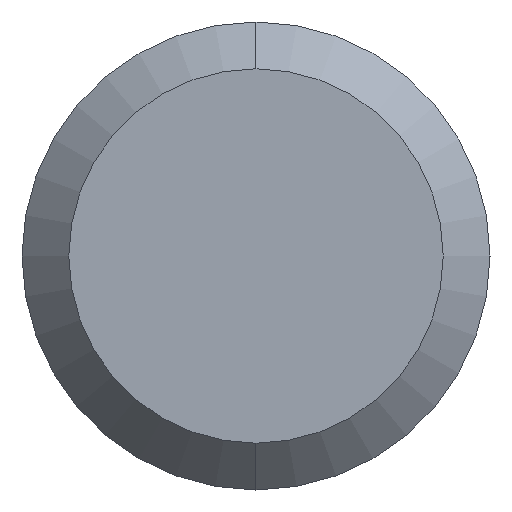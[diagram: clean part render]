
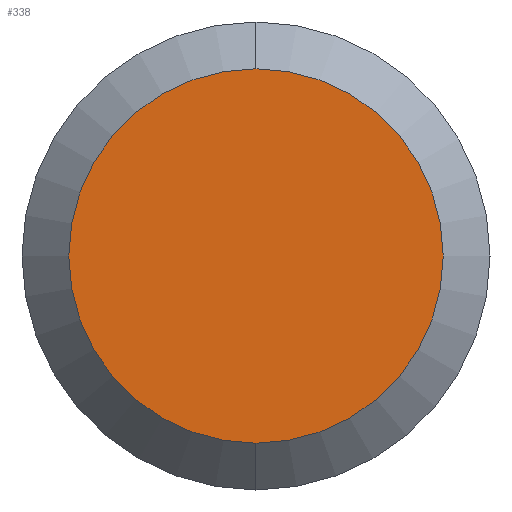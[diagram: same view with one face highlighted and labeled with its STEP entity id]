
A CAD part, left-side view. The second image highlights one B-rep face of the part: STEP entity #338.
In plain terms, the highlighted planar face has unit normal (-1, 0, 0).
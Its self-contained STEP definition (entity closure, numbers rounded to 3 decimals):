
#16 = AXIS2_PLACEMENT_3D ( 'NONE', #152, #191, #265 ) ;
#52 = DIRECTION ( 'NONE',  ( 1., 0., 0. ) ) ;
#68 = DIRECTION ( 'NONE',  ( -1., 0., 0. ) ) ;
#85 = EDGE_LOOP ( 'NONE', ( #208, #306 ) ) ;
#108 = VERTEX_POINT ( 'NONE', #114 ) ;
#111 = DIRECTION ( 'NONE',  ( 0., 0., -1. ) ) ;
#114 = CARTESIAN_POINT ( 'NONE',  ( 0., 0., 6.4 ) ) ;
#152 = CARTESIAN_POINT ( 'NONE',  ( 0., 0., 0. ) ) ;
#184 = VERTEX_POINT ( 'NONE', #207 ) ;
#191 = DIRECTION ( 'NONE',  ( -1., 0., 0. ) ) ;
#207 = CARTESIAN_POINT ( 'NONE',  ( 0., 0., -6.4 ) ) ;
#208 = ORIENTED_EDGE ( 'NONE', *, *, #312, .T. ) ;
#227 = CIRCLE ( 'NONE', #260, 6.4 ) ;
#251 = AXIS2_PLACEMENT_3D ( 'NONE', #267, #52, #111 ) ;
#257 = CARTESIAN_POINT ( 'NONE',  ( 0., 0., 0. ) ) ;
#258 = EDGE_CURVE ( 'NONE', #108, #184, #227, .T. ) ;
#260 = AXIS2_PLACEMENT_3D ( 'NONE', #257, #68, #307 ) ;
#265 = DIRECTION ( 'NONE',  ( 0., 0., 1. ) ) ;
#267 = CARTESIAN_POINT ( 'NONE',  ( 0., 6.4, 0. ) ) ;
#268 = PLANE ( 'NONE',  #251 ) ;
#272 = CIRCLE ( 'NONE', #16, 6.4 ) ;
#281 = FACE_OUTER_BOUND ( 'NONE', #85, .T. ) ;
#306 = ORIENTED_EDGE ( 'NONE', *, *, #258, .T. ) ;
#307 = DIRECTION ( 'NONE',  ( 0., 0., 1. ) ) ;
#312 = EDGE_CURVE ( 'NONE', #184, #108, #272, .T. ) ;
#338 = ADVANCED_FACE ( 'NONE', ( #281 ), #268, .F. ) ;
